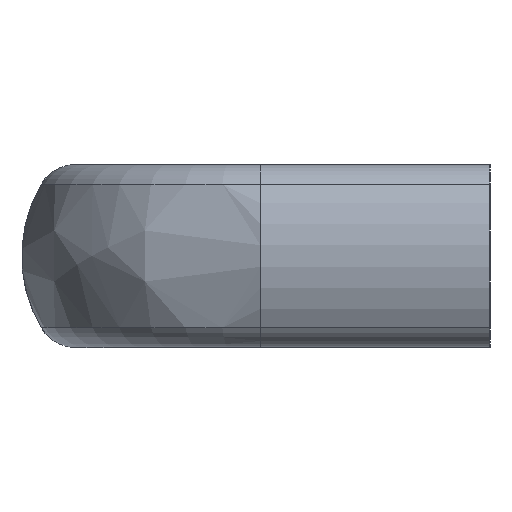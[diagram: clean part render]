
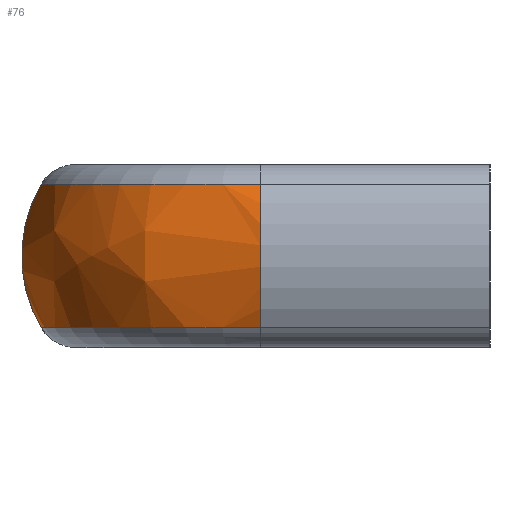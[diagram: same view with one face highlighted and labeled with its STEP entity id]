
A CAD part, left-side view. The second image highlights one B-rep face of the part: STEP entity #76.
In plain terms, the highlighted free-form (B-spline) face has degree [3, 3] with [4, 4] control points.
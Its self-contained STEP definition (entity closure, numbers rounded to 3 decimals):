
#76 = ADVANCED_FACE( '', ( #131 ), #132, .T. );
#131 = FACE_OUTER_BOUND( '', #243, .T. );
#132 = ( BOUNDED_SURFACE(  )B_SPLINE_SURFACE( 3, 3, ( ( #246, #247, #248, #249 ), ( #250, #251, #252, #253 ), ( #254, #255, #256, #257 ), ( #258, #259, #260, #261 ) ), .UNSPECIFIED., .F., .F., .F. )B_SPLINE_SURFACE_WITH_KNOTS( ( 4, 4 ), ( 4, 4 ), ( 1.571, 3.142 ), ( -0.533, 0.533 ), .UNSPECIFIED. )GEOMETRIC_REPRESENTATION_ITEM(  )RATIONAL_B_SPLINE_SURFACE( ( ( 1., 0.805, 0.805, 1. ), ( 0.907, 0.73, 0.73, 0.907 ), ( 0.907, 0.73, 0.73, 0.907 ), ( 1., 0.805, 0.805, 1. ) ) )REPRESENTATION_ITEM( '' )SURFACE(  ) );
#243 = EDGE_LOOP( '', ( #404, #405, #406, #407 ) );
#246 = CARTESIAN_POINT( '', ( -98., 48.852, 7.826 ) );
#247 = CARTESIAN_POINT( '', ( -111.972, 48.852, 7.826 ) );
#248 = CARTESIAN_POINT( '', ( -121.852, 38.972, 7.826 ) );
#249 = CARTESIAN_POINT( '', ( -121.852, 25., 7.826 ) );
#250 = CARTESIAN_POINT( '', ( -98., 51.775, 2.875 ) );
#251 = CARTESIAN_POINT( '', ( -113.685, 51.775, 2.875 ) );
#252 = CARTESIAN_POINT( '', ( -124.775, 40.685, 2.875 ) );
#253 = CARTESIAN_POINT( '', ( -124.775, 25., 2.875 ) );
#254 = CARTESIAN_POINT( '', ( -98., 51.775, -2.875 ) );
#255 = CARTESIAN_POINT( '', ( -113.685, 51.775, -2.875 ) );
#256 = CARTESIAN_POINT( '', ( -124.775, 40.685, -2.875 ) );
#257 = CARTESIAN_POINT( '', ( -124.775, 25., -2.875 ) );
#258 = CARTESIAN_POINT( '', ( -98., 48.852, -7.826 ) );
#259 = CARTESIAN_POINT( '', ( -111.972, 48.852, -7.826 ) );
#260 = CARTESIAN_POINT( '', ( -121.852, 38.972, -7.826 ) );
#261 = CARTESIAN_POINT( '', ( -121.852, 25., -7.826 ) );
#404 = ORIENTED_EDGE( '', *, *, #799, .T. );
#405 = ORIENTED_EDGE( '', *, *, #800, .F. );
#406 = ORIENTED_EDGE( '', *, *, #801, .F. );
#407 = ORIENTED_EDGE( '', *, *, #802, .T. );
#799 = EDGE_CURVE( '', #921, #925, #927, .T. );
#800 = EDGE_CURVE( '', #928, #925, #929, .T. );
#801 = EDGE_CURVE( '', #930, #928, #931, .T. );
#802 = EDGE_CURVE( '', #930, #921, #932, .T. );
#921 = VERTEX_POINT( '', #1118 );
#925 = VERTEX_POINT( '', #1127 );
#927 = CIRCLE( '', #1129, 23.852 );
#928 = VERTEX_POINT( '', #1130 );
#929 = CIRCLE( '', #1131, 15.391 );
#930 = VERTEX_POINT( '', #1132 );
#931 = CIRCLE( '', #1133, 23.852 );
#932 = B_SPLINE_CURVE_WITH_KNOTS( '', 3, ( #1134, #1135, #1136, #1137, #1138, #1139, #1140, #1141, #1142, #1143 ), .UNSPECIFIED., .F., .F., ( 4, 2, 2, 2, 4 ), ( 0., 0.25, 0.5, 0.75, 1. ), .UNSPECIFIED. );
#1118 = CARTESIAN_POINT( '', ( -98., 48.852, -7.833 ) );
#1127 = CARTESIAN_POINT( '', ( -121.852, 25., -7.826 ) );
#1129 = AXIS2_PLACEMENT_3D( '', #1398, #1399, #1400 );
#1130 = CARTESIAN_POINT( '', ( -121.852, 25., 7.826 ) );
#1131 = AXIS2_PLACEMENT_3D( '', #1401, #1402, #1403 );
#1132 = CARTESIAN_POINT( '', ( -98., 48.851, 7.834 ) );
#1133 = AXIS2_PLACEMENT_3D( '', #1404, #1405, #1406 );
#1134 = CARTESIAN_POINT( '', ( -98., 48.852, 7.826 ) );
#1135 = CARTESIAN_POINT( '', ( -98., 49.548, 6.648 ) );
#1136 = CARTESIAN_POINT( '', ( -98., 50.085, 5.376 ) );
#1137 = CARTESIAN_POINT( '', ( -98., 50.806, 2.736 ) );
#1138 = CARTESIAN_POINT( '', ( -98., 50.99, 1.368 ) );
#1139 = CARTESIAN_POINT( '', ( -98., 50.99, -1.368 ) );
#1140 = CARTESIAN_POINT( '', ( -98., 50.806, -2.736 ) );
#1141 = CARTESIAN_POINT( '', ( -98., 50.085, -5.376 ) );
#1142 = CARTESIAN_POINT( '', ( -98., 49.548, -6.648 ) );
#1143 = CARTESIAN_POINT( '', ( -98., 48.852, -7.826 ) );
#1398 = CARTESIAN_POINT( '', ( -98., 25., -7.826 ) );
#1399 = DIRECTION( '', ( 0., 0., 1. ) );
#1400 = DIRECTION( '', ( 1., 0., 0. ) );
#1401 = CARTESIAN_POINT( '', ( -108.599, 25., 0. ) );
#1402 = DIRECTION( '', ( 0., -1., 0. ) );
#1403 = DIRECTION( '', ( 0., 0., 1. ) );
#1404 = CARTESIAN_POINT( '', ( -98., 25., 7.826 ) );
#1405 = DIRECTION( '', ( 0., 0., 1. ) );
#1406 = DIRECTION( '', ( 1., 0., 0. ) );
